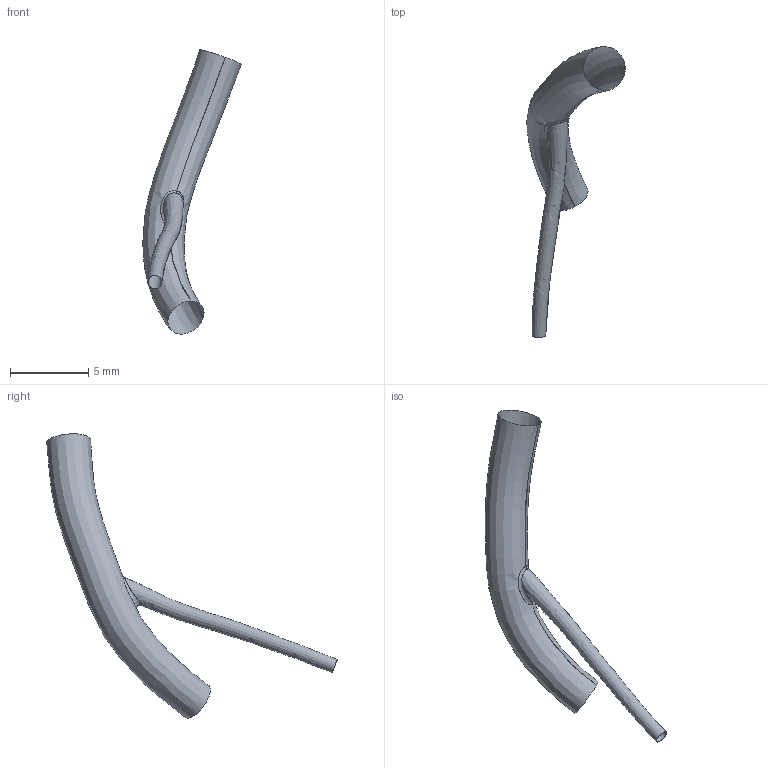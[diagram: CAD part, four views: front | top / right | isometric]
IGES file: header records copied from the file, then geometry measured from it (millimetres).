
Global section: file name: C:\Documents and Settings\Administrator\Desktop\FDA-Pig\Domestic LCA\Pig_000003\diag.es.igs; native system: Rhinoceros ( May 19 2006 ); preprocessor: Trout Lake IGES 012 May 19 2006; date: 111205.182747; units: centimetre
Bounding box: 6.28 x 18.53 x 18.13 mm (x, y, z)
Surface area: 211.2 mm2 (no closed solid volume)
Topology: 0 solids, 0 shells, 5 faces, 44 edges, 43 vertices
Faces by surface type: bspline 5
